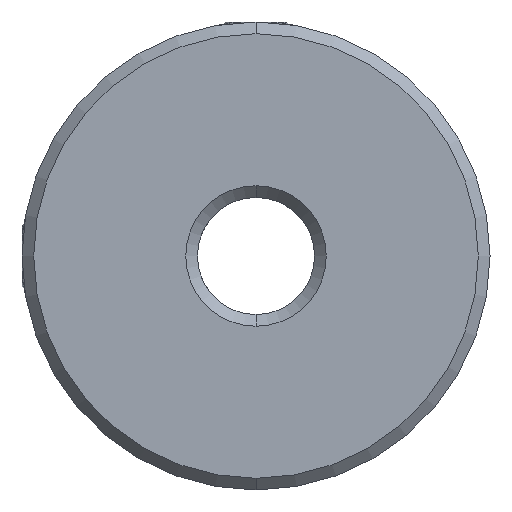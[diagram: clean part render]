
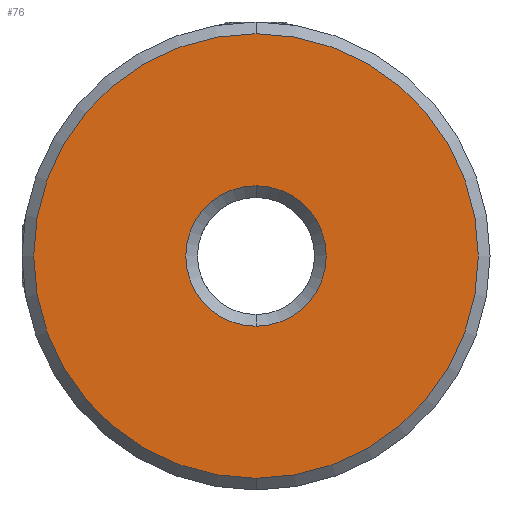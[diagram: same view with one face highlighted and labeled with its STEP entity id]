
A CAD part, front view. The second image highlights one B-rep face of the part: STEP entity #76.
In plain terms, the highlighted planar face has unit normal (0, -1, 0).
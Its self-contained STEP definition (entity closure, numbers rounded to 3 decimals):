
#59 = CARTESIAN_POINT ( 'NONE',  ( -10.188, -0.277, 0.046 ) ) ;
#76 = ADVANCED_FACE ( 'NONE', ( #1797, #2596 ), #2060, .F. ) ;
#102 = EDGE_CURVE ( 'NONE', #2530, #2476, #2283, .T. ) ;
#161 = DIRECTION ( 'NONE',  ( 0., 0., 1. ) ) ;
#317 = DIRECTION ( 'NONE',  ( 0., 0., 1. ) ) ;
#531 = CIRCLE ( 'NONE', #3328, 15.2 ) ;
#576 = CARTESIAN_POINT ( 'NONE',  ( -10.188, -0.277, 0.046 ) ) ;
#652 = CIRCLE ( 'NONE', #2088, 15.2 ) ;
#845 = CARTESIAN_POINT ( 'NONE',  ( -10.188, -0.277, 0.046 ) ) ;
#863 = CARTESIAN_POINT ( 'NONE',  ( -10.188, -0.277, 4.846 ) ) ;
#899 = CARTESIAN_POINT ( 'NONE',  ( -10.188, -0.277, 0.046 ) ) ;
#915 = EDGE_CURVE ( 'NONE', #2597, #2045, #652, .T. ) ;
#916 = CARTESIAN_POINT ( 'NONE',  ( -10.188, -0.277, -15.154 ) ) ;
#1520 = DIRECTION ( 'NONE',  ( 0., 0., 1. ) ) ;
#1633 = CARTESIAN_POINT ( 'NONE',  ( -10.188, -0.277, -4.754 ) ) ;
#1797 = FACE_OUTER_BOUND ( 'NONE', #3474, .T. ) ;
#1899 = DIRECTION ( 'NONE',  ( 0., -1., 0. ) ) ;
#1912 = EDGE_CURVE ( 'NONE', #2045, #2597, #531, .T. ) ;
#1973 = AXIS2_PLACEMENT_3D ( 'NONE', #845, #2350, #2576 ) ;
#1992 = ORIENTED_EDGE ( 'NONE', *, *, #1912, .T. ) ;
#2045 = VERTEX_POINT ( 'NONE', #2851 ) ;
#2060 = PLANE ( 'NONE',  #3258 ) ;
#2088 = AXIS2_PLACEMENT_3D ( 'NONE', #576, #2551, #2274 ) ;
#2274 = DIRECTION ( 'NONE',  ( 0., 0., 1. ) ) ;
#2283 = CIRCLE ( 'NONE', #2762, 4.8 ) ;
#2350 = DIRECTION ( 'NONE',  ( 0., 1., 0. ) ) ;
#2408 = CARTESIAN_POINT ( 'NONE',  ( -10.188, -0.277, 0.046 ) ) ;
#2428 = ORIENTED_EDGE ( 'NONE', *, *, #3522, .T. ) ;
#2472 = ORIENTED_EDGE ( 'NONE', *, *, #915, .T. ) ;
#2476 = VERTEX_POINT ( 'NONE', #1633 ) ;
#2530 = VERTEX_POINT ( 'NONE', #863 ) ;
#2551 = DIRECTION ( 'NONE',  ( 0., -1., 0. ) ) ;
#2564 = CIRCLE ( 'NONE', #1973, 4.8 ) ;
#2576 = DIRECTION ( 'NONE',  ( 0., 0., 1. ) ) ;
#2596 = FACE_BOUND ( 'NONE', #3070, .T. ) ;
#2597 = VERTEX_POINT ( 'NONE', #916 ) ;
#2762 = AXIS2_PLACEMENT_3D ( 'NONE', #899, #3475, #317 ) ;
#2851 = CARTESIAN_POINT ( 'NONE',  ( -10.188, -0.277, 15.246 ) ) ;
#3070 = EDGE_LOOP ( 'NONE', ( #2428, #3342 ) ) ;
#3167 = DIRECTION ( 'NONE',  ( 0., 1., 0. ) ) ;
#3258 = AXIS2_PLACEMENT_3D ( 'NONE', #59, #3167, #1520 ) ;
#3328 = AXIS2_PLACEMENT_3D ( 'NONE', #2408, #1899, #161 ) ;
#3342 = ORIENTED_EDGE ( 'NONE', *, *, #102, .T. ) ;
#3474 = EDGE_LOOP ( 'NONE', ( #1992, #2472 ) ) ;
#3475 = DIRECTION ( 'NONE',  ( 0., 1., 0. ) ) ;
#3522 = EDGE_CURVE ( 'NONE', #2476, #2530, #2564, .T. ) ;
